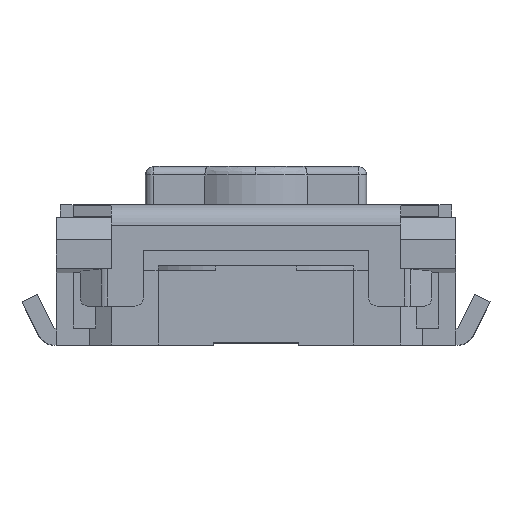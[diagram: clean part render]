
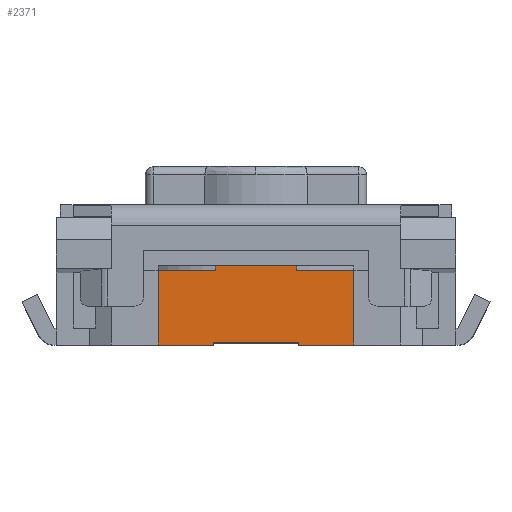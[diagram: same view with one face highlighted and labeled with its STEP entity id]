
A CAD part, top view. The second image highlights one B-rep face of the part: STEP entity #2371.
In plain terms, the highlighted planar face has unit normal (0, 0, 1).
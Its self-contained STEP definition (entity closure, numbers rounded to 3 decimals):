
#1444 = ORIENTED_EDGE ( 'NONE', *, *, #2451, .F. ) ;
#1463 = ORIENTED_EDGE ( 'NONE', *, *, #3966, .F. ) ;
#1472 = ORIENTED_EDGE ( 'NONE', *, *, #3927, .F. ) ;
#1474 = ORIENTED_EDGE ( 'NONE', *, *, #2453, .T. ) ;
#1495 = ORIENTED_EDGE ( 'NONE', *, *, #2533, .F. ) ;
#1500 = ORIENTED_EDGE ( 'NONE', *, *, #2454, .T. ) ;
#1502 = ORIENTED_EDGE ( 'NONE', *, *, #2456, .F. ) ;
#1505 = ORIENTED_EDGE ( 'NONE', *, *, #2452, .F. ) ;
#1507 = ORIENTED_EDGE ( 'NONE', *, *, #3970, .F. ) ;
#1509 = ORIENTED_EDGE ( 'NONE', *, *, #3976, .F. ) ;
#1511 = ORIENTED_EDGE ( 'NONE', *, *, #2450, .F. ) ;
#1514 = ORIENTED_EDGE ( 'NONE', *, *, #3973, .F. ) ;
#2110 = VERTEX_POINT ( 'NONE', #5287 ) ;
#2111 = VERTEX_POINT ( 'NONE', #5288 ) ;
#2112 = VERTEX_POINT ( 'NONE', #5289 ) ;
#2152 = VERTEX_POINT ( 'NONE', #5329 ) ;
#2155 = VERTEX_POINT ( 'NONE', #5332 ) ;
#2156 = VERTEX_POINT ( 'NONE', #5333 ) ;
#2157 = VERTEX_POINT ( 'NONE', #5334 ) ;
#2160 = VERTEX_POINT ( 'NONE', #5337 ) ;
#2161 = VERTEX_POINT ( 'NONE', #5338 ) ;
#2236 = VERTEX_POINT ( 'NONE', #5413 ) ;
#2237 = VERTEX_POINT ( 'NONE', #5414 ) ;
#2266 = VERTEX_POINT ( 'NONE', #5443 ) ;
#2371 = ADVANCED_FACE ( 'NONE', ( #5826 ), #5676, .F. ) ;
#2450 = EDGE_CURVE ( 'NONE', #2160, #2157, #6245, .T. ) ;
#2451 = EDGE_CURVE ( 'NONE', #2152, #2110, #6248, .T. ) ;
#2452 = EDGE_CURVE ( 'NONE', #2110, #2111, #6251, .T. ) ;
#2453 = EDGE_CURVE ( 'NONE', #2112, #2111, #6254, .T. ) ;
#2454 = EDGE_CURVE ( 'NONE', #2161, #2266, #6257, .T. ) ;
#2456 = EDGE_CURVE ( 'NONE', #2112, #2237, #6263, .T. ) ;
#2533 = EDGE_CURVE ( 'NONE', #2237, #2236, #6494, .T. ) ;
#3265 = EDGE_LOOP ( 'NONE', ( #1500, #1472, #1495, #1502, #1474, #1505, #1444, #1509, #1514, #1507, #1511, #1463 ) ) ;
#3927 = EDGE_CURVE ( 'NONE', #2236, #2266, #7686, .T. ) ;
#3966 = EDGE_CURVE ( 'NONE', #2161, #2160, #7803, .T. ) ;
#3970 = EDGE_CURVE ( 'NONE', #2157, #2156, #7815, .T. ) ;
#3973 = EDGE_CURVE ( 'NONE', #2156, #2155, #7824, .T. ) ;
#3976 = EDGE_CURVE ( 'NONE', #2155, #2152, #7833, .T. ) ;
#5287 = CARTESIAN_POINT ( 'NONE',  ( 1.15, 0.88, 1.75 ) ) ;
#5288 = CARTESIAN_POINT ( 'NONE',  ( 1.15, 0., 1.75 ) ) ;
#5289 = CARTESIAN_POINT ( 'NONE',  ( 0.5, 0., 1.75 ) ) ;
#5329 = CARTESIAN_POINT ( 'NONE',  ( 0.478, 0.88, 1.75 ) ) ;
#5332 = CARTESIAN_POINT ( 'NONE',  ( 0.478, 0.93, 1.75 ) ) ;
#5333 = CARTESIAN_POINT ( 'NONE',  ( -0.478, 0.93, 1.75 ) ) ;
#5334 = CARTESIAN_POINT ( 'NONE',  ( -0.478, 0.88, 1.75 ) ) ;
#5337 = CARTESIAN_POINT ( 'NONE',  ( -1.15, 0.88, 1.75 ) ) ;
#5338 = CARTESIAN_POINT ( 'NONE',  ( -1.15, 0., 1.75 ) ) ;
#5413 = CARTESIAN_POINT ( 'NONE',  ( -0.5, 0.03, 1.75 ) ) ;
#5414 = CARTESIAN_POINT ( 'NONE',  ( 0.5, 0.03, 1.75 ) ) ;
#5443 = CARTESIAN_POINT ( 'NONE',  ( -0.5, 0., 1.75 ) ) ;
#5676 = PLANE ( 'NONE',  #5829 ) ;
#5677 = CARTESIAN_POINT ( 'NONE',  ( 1.15, 0., 1.75 ) ) ;
#5678 = DIRECTION ( 'NONE',  ( 0., 0., -1. ) ) ;
#5679 = DIRECTION ( 'NONE',  ( -1., 0., 0. ) ) ;
#5826 = FACE_OUTER_BOUND ( 'NONE', #3265, .T. ) ;
#5829 = AXIS2_PLACEMENT_3D ( 'NONE', #5677, #5678, #5679 ) ;
#5920 = VECTOR ( 'NONE', #6247, 1000. ) ;
#5921 = VECTOR ( 'NONE', #6250, 1000. ) ;
#5922 = VECTOR ( 'NONE', #6253, 1000. ) ;
#5923 = VECTOR ( 'NONE', #6256, 1000. ) ;
#5924 = VECTOR ( 'NONE', #6259, 1000. ) ;
#5926 = VECTOR ( 'NONE', #6265, 1000. ) ;
#6002 = VECTOR ( 'NONE', #6496, 1000. ) ;
#6245 = LINE ( 'NONE', #6246, #5920 ) ;
#6246 = CARTESIAN_POINT ( 'NONE',  ( -0.961, 0.88, 1.75 ) ) ;
#6247 = DIRECTION ( 'NONE',  ( 1., 0., 0. ) ) ;
#6248 = LINE ( 'NONE', #6249, #5921 ) ;
#6249 = CARTESIAN_POINT ( 'NONE',  ( 0.961, 0.88, 1.75 ) ) ;
#6250 = DIRECTION ( 'NONE',  ( 1., 0., 0. ) ) ;
#6251 = LINE ( 'NONE', #6252, #5922 ) ;
#6252 = CARTESIAN_POINT ( 'NONE',  ( 1.15, 0.44, 1.75 ) ) ;
#6253 = DIRECTION ( 'NONE',  ( 0., -1., 0. ) ) ;
#6254 = LINE ( 'NONE', #6255, #5923 ) ;
#6255 = CARTESIAN_POINT ( 'NONE',  ( 1.436, 0., 1.75 ) ) ;
#6256 = DIRECTION ( 'NONE',  ( 1., 0., 0. ) ) ;
#6257 = LINE ( 'NONE', #6258, #5924 ) ;
#6258 = CARTESIAN_POINT ( 'NONE',  ( -1.436, 0., 1.75 ) ) ;
#6259 = DIRECTION ( 'NONE',  ( 1., 0., 0. ) ) ;
#6263 = LINE ( 'NONE', #6264, #5926 ) ;
#6264 = CARTESIAN_POINT ( 'NONE',  ( 0.5, 0.465, 1.75 ) ) ;
#6265 = DIRECTION ( 'NONE',  ( 0., 1., 0. ) ) ;
#6494 = LINE ( 'NONE', #6495, #6002 ) ;
#6495 = CARTESIAN_POINT ( 'NONE',  ( 0., 0.03, 1.75 ) ) ;
#6496 = DIRECTION ( 'NONE',  ( -1., 0., 0. ) ) ;
#7473 = VECTOR ( 'NONE', #7688, 1000. ) ;
#7686 = LINE ( 'NONE', #7687, #7473 ) ;
#7687 = CARTESIAN_POINT ( 'NONE',  ( -0.5, 0.465, 1.75 ) ) ;
#7688 = DIRECTION ( 'NONE',  ( 0., -1., 0. ) ) ;
#7803 = LINE ( 'NONE', #7804, #8674 ) ;
#7804 = CARTESIAN_POINT ( 'NONE',  ( -1.15, 0.465, 1.75 ) ) ;
#7805 = DIRECTION ( 'NONE',  ( 0., 1., 0. ) ) ;
#7815 = LINE ( 'NONE', #7816, #8680 ) ;
#7816 = CARTESIAN_POINT ( 'NONE',  ( -0.478, 0.465, 1.75 ) ) ;
#7817 = DIRECTION ( 'NONE',  ( 0., 1., 0. ) ) ;
#7824 = LINE ( 'NONE', #7825, #8682 ) ;
#7825 = CARTESIAN_POINT ( 'NONE',  ( 0., 0.93, 1.75 ) ) ;
#7826 = DIRECTION ( 'NONE',  ( 1., 0., 0. ) ) ;
#7833 = LINE ( 'NONE', #7834, #8686 ) ;
#7834 = CARTESIAN_POINT ( 'NONE',  ( 0.478, 0.465, 1.75 ) ) ;
#7835 = DIRECTION ( 'NONE',  ( 0., -1., 0. ) ) ;
#8674 = VECTOR ( 'NONE', #7805, 1000. ) ;
#8680 = VECTOR ( 'NONE', #7817, 1000. ) ;
#8682 = VECTOR ( 'NONE', #7826, 1000. ) ;
#8686 = VECTOR ( 'NONE', #7835, 1000. ) ;
